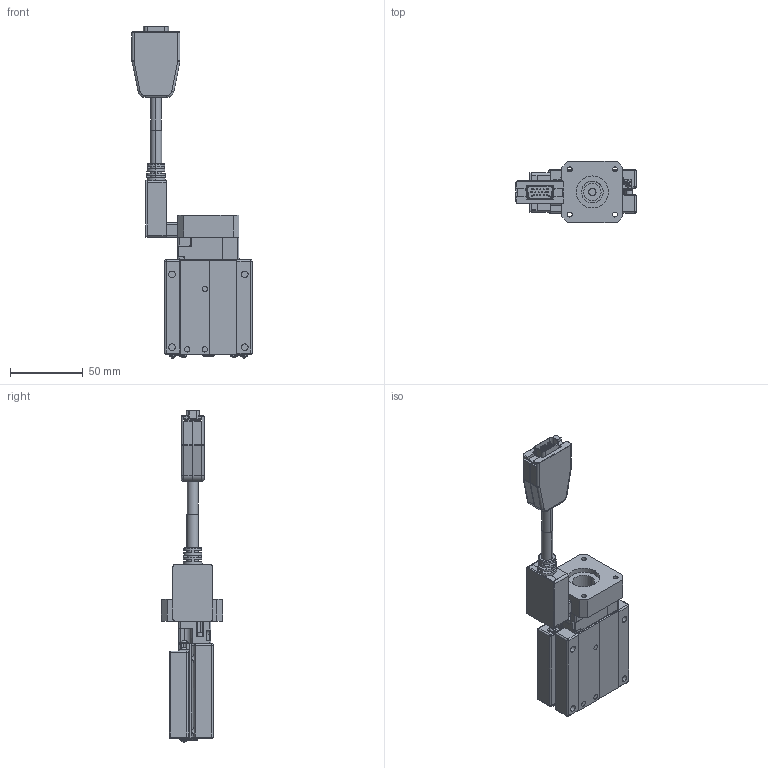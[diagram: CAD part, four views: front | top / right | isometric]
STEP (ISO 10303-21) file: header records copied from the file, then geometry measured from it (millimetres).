
FILE_DESCRIPTION (( 'STEP AP203' ), '1' );
FILE_NAME ('CXS6020(42框無馬達).STEP', '2023-12-25T06:55:50', ( '' ), ( '' ), 'SwSTEP 2.0', 'SolidWorks 2019', '' );
FILE_SCHEMA (( 'CONFIG_CONTROL_DESIGN' ));
Products named in the file (3): CXS6020(42框無馬達); Group1^CXS6020(42框無馬達)_defeature_GMT; Group2^CXS6020(42框無馬達)_defeature_GMT
Assembly tree (2 placements, depth 2):
  CXS6020(42框無馬達)
    Group1^CXS6020(42框無馬達)_defeature_GMT
    Group2^CXS6020(42框無馬達)_defeature_GMT
Bounding box: 82.5 x 42 x 228.01 mm (x, y, z)
Volume: 141479 mm3; surface area: 65427 mm2
Topology: 8 solids, 8 shells, 5091 faces, 13133 edges, 8267 vertices
Faces by surface type: plane 2710, bspline 1173, cylinder 848, cone 137, sphere 134, torus 89
Entity records: 171231 total; most frequent: CARTESIAN_POINT 57049, ORIENTED_EDGE 25974, DIRECTION 19362, EDGE_CURVE 12987, VERTEX_POINT 8235, VECTOR 7376, LINE 7376, AXIS2_PLACEMENT_3D 5993
